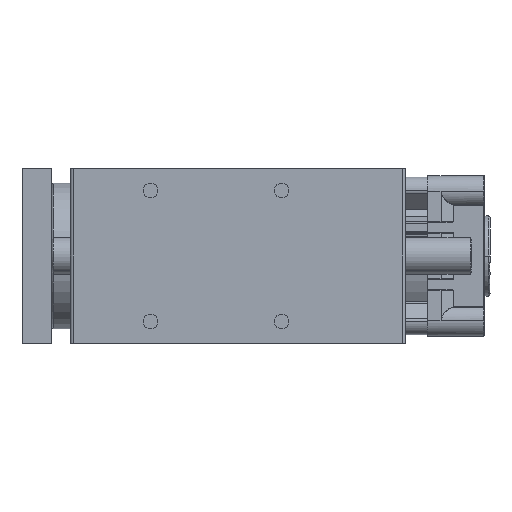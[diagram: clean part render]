
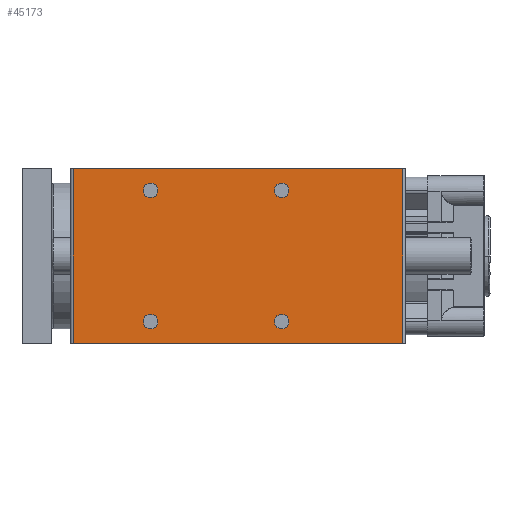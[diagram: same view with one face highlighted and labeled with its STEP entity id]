
A CAD part, left-side view. The second image highlights one B-rep face of the part: STEP entity #45173.
In plain terms, the highlighted planar face has unit normal (-1, 0, 0).
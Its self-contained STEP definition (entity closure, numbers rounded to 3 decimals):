
#159 = DIRECTION ( 'NONE',  ( -1., 0., 0. ) ) ;
#1806 = CARTESIAN_POINT ( 'NONE',  ( 0., -55., 105. ) ) ;
#1866 = CARTESIAN_POINT ( 'NONE',  ( 0., -145., 105. ) ) ;
#2045 = CIRCLE ( 'NONE', #10610, 5. ) ;
#2070 = DIRECTION ( 'NONE',  ( -1., 0., 0. ) ) ;
#2148 = DIRECTION ( 'NONE',  ( 0., 0., -1. ) ) ;
#2848 = LINE ( 'NONE', #11893, #24315 ) ;
#3096 = VERTEX_POINT ( 'NONE', #29577 ) ;
#3392 = CIRCLE ( 'NONE', #37257, 5. ) ;
#3785 = EDGE_CURVE ( 'NONE', #21060, #36823, #2848, .T. ) ;
#4282 = FACE_BOUND ( 'NONE', #21582, .T. ) ;
#4657 = EDGE_CURVE ( 'NONE', #37984, #21060, #46375, .T. ) ;
#4890 = VERTEX_POINT ( 'NONE', #22229 ) ;
#5856 = DIRECTION ( 'NONE',  ( 0., 1., 0. ) ) ;
#5915 = DIRECTION ( 'NONE',  ( 0., -1., 0. ) ) ;
#5966 = CIRCLE ( 'NONE', #24378, 5. ) ;
#6950 = LINE ( 'NONE', #34297, #48699 ) ;
#7508 = CIRCLE ( 'NONE', #47274, 5. ) ;
#7773 = CARTESIAN_POINT ( 'NONE',  ( 0., -228., 120. ) ) ;
#8647 = DIRECTION ( 'NONE',  ( 0., -1., 0. ) ) ;
#9891 = EDGE_LOOP ( 'NONE', ( #23933, #44133 ) ) ;
#10610 = AXIS2_PLACEMENT_3D ( 'NONE', #26275, #2070, #30330 ) ;
#10879 = CARTESIAN_POINT ( 'NONE',  ( 0., -50., 105. ) ) ;
#11006 = DIRECTION ( 'NONE',  ( -1., 0., 0. ) ) ;
#11157 = VERTEX_POINT ( 'NONE', #10879 ) ;
#11493 = CARTESIAN_POINT ( 'NONE',  ( 0., -55., 15. ) ) ;
#11496 = CARTESIAN_POINT ( 'NONE',  ( 0., -145., 15. ) ) ;
#11502 = LINE ( 'NONE', #42254, #13996 ) ;
#11609 = ORIENTED_EDGE ( 'NONE', *, *, #4657, .F. ) ;
#11893 = CARTESIAN_POINT ( 'NONE',  ( 0., -228., 120. ) ) ;
#12738 = EDGE_CURVE ( 'NONE', #16774, #4890, #34216, .T. ) ;
#13341 = CIRCLE ( 'NONE', #16908, 5. ) ;
#13504 = DIRECTION ( 'NONE',  ( 1., 0., 0. ) ) ;
#13742 = FACE_BOUND ( 'NONE', #9891, .T. ) ;
#13996 = VECTOR ( 'NONE', #2148, 1000. ) ;
#15537 = DIRECTION ( 'NONE',  ( 0., -1., 0. ) ) ;
#15540 = DIRECTION ( 'NONE',  ( 0., 1., 0. ) ) ;
#16352 = EDGE_LOOP ( 'NONE', ( #22633, #32388 ) ) ;
#16774 = VERTEX_POINT ( 'NONE', #35684 ) ;
#16908 = AXIS2_PLACEMENT_3D ( 'NONE', #11493, #39747, #15537 ) ;
#17008 = VERTEX_POINT ( 'NONE', #26253 ) ;
#18254 = CARTESIAN_POINT ( 'NONE',  ( 0., -228., 0. ) ) ;
#18341 = CARTESIAN_POINT ( 'NONE',  ( 0., -60., 15. ) ) ;
#19011 = EDGE_CURVE ( 'NONE', #20440, #32497, #43305, .T. ) ;
#19932 = VERTEX_POINT ( 'NONE', #18341 ) ;
#20238 = EDGE_CURVE ( 'NONE', #4890, #16774, #3392, .T. ) ;
#20440 = VERTEX_POINT ( 'NONE', #23777 ) ;
#21060 = VERTEX_POINT ( 'NONE', #7773 ) ;
#21573 = AXIS2_PLACEMENT_3D ( 'NONE', #25704, #13504, #29764 ) ;
#21582 = EDGE_LOOP ( 'NONE', ( #33355, #39461 ) ) ;
#21636 = PLANE ( 'NONE',  #21573 ) ;
#22229 = CARTESIAN_POINT ( 'NONE',  ( 0., -140., 105. ) ) ;
#22633 = ORIENTED_EDGE ( 'NONE', *, *, #40776, .F. ) ;
#23657 = EDGE_CURVE ( 'NONE', #32497, #20440, #30962, .T. ) ;
#23774 = CARTESIAN_POINT ( 'NONE',  ( 0., -55., 105. ) ) ;
#23777 = CARTESIAN_POINT ( 'NONE',  ( 0., -150., 15. ) ) ;
#23933 = ORIENTED_EDGE ( 'NONE', *, *, #37201, .F. ) ;
#24315 = VECTOR ( 'NONE', #36103, 1000. ) ;
#24348 = CARTESIAN_POINT ( 'NONE',  ( 0., -145., 105. ) ) ;
#24378 = AXIS2_PLACEMENT_3D ( 'NONE', #1806, #30071, #5856 ) ;
#24518 = FACE_BOUND ( 'NONE', #16352, .T. ) ;
#25704 = CARTESIAN_POINT ( 'NONE',  ( 0., -2., 120. ) ) ;
#25851 = CARTESIAN_POINT ( 'NONE',  ( 0., -140., 15. ) ) ;
#26253 = CARTESIAN_POINT ( 'NONE',  ( 0., -2., 0. ) ) ;
#26275 = CARTESIAN_POINT ( 'NONE',  ( 0., -55., 15. ) ) ;
#26820 = EDGE_LOOP ( 'NONE', ( #36424, #29864, #11609, #35127 ) ) ;
#27435 = VECTOR ( 'NONE', #8647, 1000. ) ;
#27856 = DIRECTION ( 'NONE',  ( 0., 1., 0. ) ) ;
#28333 = FACE_BOUND ( 'NONE', #40990, .T. ) ;
#28430 = DIRECTION ( 'NONE',  ( 0., -1., 0. ) ) ;
#29577 = CARTESIAN_POINT ( 'NONE',  ( 0., -50., 15. ) ) ;
#29764 = DIRECTION ( 'NONE',  ( 0., 1., 0. ) ) ;
#29864 = ORIENTED_EDGE ( 'NONE', *, *, #3785, .F. ) ;
#29866 = AXIS2_PLACEMENT_3D ( 'NONE', #24348, #159, #28430 ) ;
#30071 = DIRECTION ( 'NONE',  ( -1., 0., 0. ) ) ;
#30127 = DIRECTION ( 'NONE',  ( -1., 0., 0. ) ) ;
#30330 = DIRECTION ( 'NONE',  ( 0., -1., 0. ) ) ;
#30962 = CIRCLE ( 'NONE', #51541, 5. ) ;
#32388 = ORIENTED_EDGE ( 'NONE', *, *, #48498, .F. ) ;
#32497 = VERTEX_POINT ( 'NONE', #25851 ) ;
#33355 = ORIENTED_EDGE ( 'NONE', *, *, #19011, .F. ) ;
#34216 = CIRCLE ( 'NONE', #29866, 5. ) ;
#34297 = CARTESIAN_POINT ( 'NONE',  ( 0., -2., 0. ) ) ;
#34472 = DIRECTION ( 'NONE',  ( 0., -1., 0. ) ) ;
#35127 = ORIENTED_EDGE ( 'NONE', *, *, #41595, .T. ) ;
#35204 = CARTESIAN_POINT ( 'NONE',  ( 0., -145., 15. ) ) ;
#35289 = VERTEX_POINT ( 'NONE', #44979 ) ;
#35684 = CARTESIAN_POINT ( 'NONE',  ( 0., -150., 105. ) ) ;
#36103 = DIRECTION ( 'NONE',  ( 0., 0., -1. ) ) ;
#36424 = ORIENTED_EDGE ( 'NONE', *, *, #42781, .T. ) ;
#36823 = VERTEX_POINT ( 'NONE', #18254 ) ;
#37201 = EDGE_CURVE ( 'NONE', #35289, #11157, #5966, .T. ) ;
#37257 = AXIS2_PLACEMENT_3D ( 'NONE', #1866, #30127, #5915 ) ;
#37984 = VERTEX_POINT ( 'NONE', #46391 ) ;
#38568 = AXIS2_PLACEMENT_3D ( 'NONE', #35204, #11006, #39265 ) ;
#39265 = DIRECTION ( 'NONE',  ( 0., 1., 0. ) ) ;
#39461 = ORIENTED_EDGE ( 'NONE', *, *, #23657, .F. ) ;
#39747 = DIRECTION ( 'NONE',  ( -1., 0., 0. ) ) ;
#39758 = DIRECTION ( 'NONE',  ( -1., 0., 0. ) ) ;
#40776 = EDGE_CURVE ( 'NONE', #19932, #3096, #2045, .T. ) ;
#40990 = EDGE_LOOP ( 'NONE', ( #46856, #47439 ) ) ;
#41595 = EDGE_CURVE ( 'NONE', #37984, #17008, #11502, .T. ) ;
#42254 = CARTESIAN_POINT ( 'NONE',  ( 0., -2., 120. ) ) ;
#42781 = EDGE_CURVE ( 'NONE', #17008, #36823, #6950, .T. ) ;
#43305 = CIRCLE ( 'NONE', #38568, 5. ) ;
#43895 = EDGE_CURVE ( 'NONE', #11157, #35289, #7508, .T. ) ;
#44133 = ORIENTED_EDGE ( 'NONE', *, *, #43895, .F. ) ;
#44761 = FACE_OUTER_BOUND ( 'NONE', #26820, .T. ) ;
#44979 = CARTESIAN_POINT ( 'NONE',  ( 0., -60., 105. ) ) ;
#45173 = ADVANCED_FACE ( 'NONE', ( #4282, #24518, #28333, #13742, #44761 ), #21636, .F. ) ;
#46375 = LINE ( 'NONE', #48949, #27435 ) ;
#46391 = CARTESIAN_POINT ( 'NONE',  ( 0., -2., 120. ) ) ;
#46856 = ORIENTED_EDGE ( 'NONE', *, *, #12738, .F. ) ;
#47274 = AXIS2_PLACEMENT_3D ( 'NONE', #23774, #52013, #27856 ) ;
#47439 = ORIENTED_EDGE ( 'NONE', *, *, #20238, .F. ) ;
#48498 = EDGE_CURVE ( 'NONE', #3096, #19932, #13341, .T. ) ;
#48699 = VECTOR ( 'NONE', #34472, 1000. ) ;
#48949 = CARTESIAN_POINT ( 'NONE',  ( 0., -2., 120. ) ) ;
#51541 = AXIS2_PLACEMENT_3D ( 'NONE', #11496, #39758, #15540 ) ;
#52013 = DIRECTION ( 'NONE',  ( -1., 0., 0. ) ) ;
